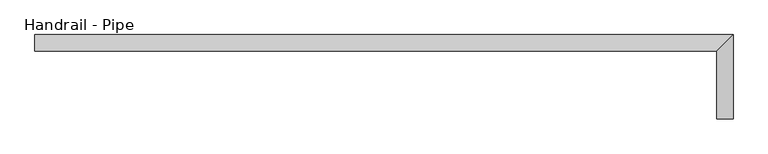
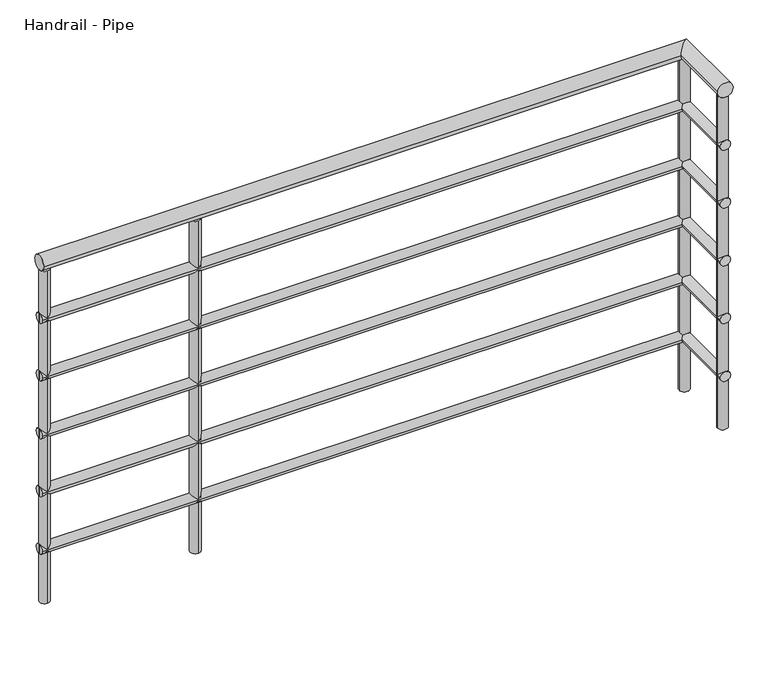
"""IFC4 building model written with IfcOpenShell, lengths in millimetres: railing geometry, Handrail - Pipe."""

from ifc_helpers import new_model, si_unit, point, frame, frame_2d, origin, origin_with_axes, place, context, project, spatial, circle_curve, ellipse_curve, trimmed, segment, composite_curve, outline, extrude, source, transform, mapped, element, save
from ifc_brep_helpers import plane_surface, cylinder_surface, advanced_brep


def handrail_pipe_b2938140(model_context):
    return source(origin(), model_context, "Body", "SolidModel", [
        advanced_brep(
        [(11849.3921922, -6891.4887891, 895.35), (11811.2921922, -6891.4887891, 895.35), (11811.2921922, -6732.7387891, 895.35), (11849.3921922, -6694.6387891, 895.35), (10222.462245, -6694.6387891, 895.35), (10222.462245, -6732.7387891, 895.35)],
        [
            (0, 1, circle_curve(frame((11830.3421922, -6891.4887891, 895.35), z_axis=(0.0, -1.0, 0.0), x_axis=(-1.0, 0.0, 0.0)), 19.05)),
            (1, 0, circle_curve(frame((11830.3421922, -6891.4887891, 895.35), z_axis=(0.0, -1.0, 0.0), x_axis=(-1.0, 0.0, 0.0)), 19.05)),
            (1, 2),
            (2, 3, ellipse_curve(frame((11830.3421922, -6713.6887891, 895.35), z_axis=(0.7071067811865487, -0.7071067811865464, 0.0), x_axis=(-0.7071067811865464, -0.7071067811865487, 0.0)), 26.9407684, 19.05)),
            (3, 0),
            (3, 2, ellipse_curve(frame((11830.3421922, -6713.6887891, 895.35), z_axis=(0.7071067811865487, -0.7071067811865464, 0.0), x_axis=(-0.7071067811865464, -0.7071067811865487, 0.0)), 26.9407684, 19.05)),
            (4, 5, circle_curve(frame((10222.462245, -6713.6887891, 895.35), z_axis=(-1.0, 0.0, 0.0), x_axis=(0.0, -1.0, 0.0)), 19.05)),
            (5, 4, circle_curve(frame((10222.462245, -6713.6887891, 895.35), z_axis=(-1.0, 0.0, 0.0), x_axis=(0.0, -1.0, 0.0)), 19.05)),
            (2, 5),
            (4, 3),
        ],
        [
            plane_surface(frame((11830.3421922, -6891.4887891, 914.4), z_axis=(0.0, -1.0, 0.0), x_axis=(0.0, 0.0, 1.0))),
            cylinder_surface(frame((11830.3421922, -6891.4887891, 895.35), z_axis=(0.0, -1.0, 0.0), x_axis=(-1.0, 0.0, 0.0)), 19.05),
            plane_surface(frame((10222.462245, -6713.6887891, 914.4), z_axis=(-1.0, 0.0, 0.0), x_axis=(0.0, -1.0, 0.0))),
            cylinder_surface(frame((11830.3421922, -6713.6887891, 895.35), z_axis=(1.0, 0.0, 0.0), x_axis=(0.0, -1.0, 0.0)), 19.05),
        ],
        [
            (0, [[1, 2]]),
            (1, [[-2, 3, 4, 5]]),
            (1, [[-1, -5, 6, -3]]),
            (2, [[7, 8]]),
            (3, [[-4, 9, -7, 10]]),
            (3, [[-6, -10, -8, -9]]),
        ],
    ),
        advanced_brep(
        [(11843.0421922, -6891.4887891, 749.3), (11817.6421922, -6891.4887891, 749.3), (11817.6421922, -6726.3887891, 749.3), (11843.0421922, -6700.9887891, 749.3), (10222.462245, -6700.9887891, 749.3), (10222.462245, -6726.3887891, 749.3)],
        [
            (0, 1, circle_curve(frame((11830.3421922, -6891.4887891, 749.3), z_axis=(0.0, -1.0, 0.0), x_axis=(-1.0, 0.0, 0.0)), 12.7)),
            (1, 0, circle_curve(frame((11830.3421922, -6891.4887891, 749.3), z_axis=(0.0, -1.0, 0.0), x_axis=(-1.0, 0.0, 0.0)), 12.7)),
            (1, 2),
            (2, 3, ellipse_curve(frame((11830.3421922, -6713.6887891, 749.3), z_axis=(0.7071067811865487, -0.7071067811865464, 0.0), x_axis=(-0.7071067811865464, -0.7071067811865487, 0.0)), 17.9605122, 12.7)),
            (3, 0),
            (3, 2, ellipse_curve(frame((11830.3421922, -6713.6887891, 749.3), z_axis=(0.7071067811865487, -0.7071067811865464, 0.0), x_axis=(-0.7071067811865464, -0.7071067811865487, 0.0)), 17.9605122, 12.7)),
            (4, 5, circle_curve(frame((10222.462245, -6713.6887891, 749.3), z_axis=(-1.0, 0.0, 0.0), x_axis=(0.0, -1.0, 0.0)), 12.7)),
            (5, 4, circle_curve(frame((10222.462245, -6713.6887891, 749.3), z_axis=(-1.0, 0.0, 0.0), x_axis=(0.0, -1.0, 0.0)), 12.7)),
            (2, 5),
            (4, 3),
        ],
        [
            plane_surface(frame((11830.3421922, -6891.4887891, 762.0), z_axis=(0.0, -1.0, 0.0), x_axis=(0.0, 0.0, 1.0))),
            cylinder_surface(frame((11830.3421922, -6891.4887891, 749.3), z_axis=(0.0, -1.0, 0.0), x_axis=(-1.0, 0.0, 0.0)), 12.7),
            plane_surface(frame((10222.462245, -6713.6887891, 762.0), z_axis=(-1.0, 0.0, 0.0), x_axis=(0.0, -1.0, 0.0))),
            cylinder_surface(frame((11830.3421922, -6713.6887891, 749.3), z_axis=(1.0, 0.0, 0.0), x_axis=(0.0, -1.0, 0.0)), 12.7),
        ],
        [
            (0, [[1, 2]]),
            (1, [[-2, 3, 4, 5]]),
            (1, [[-1, -5, 6, -3]]),
            (2, [[7, 8]]),
            (3, [[-4, 9, -7, 10]]),
            (3, [[-6, -10, -8, -9]]),
        ],
    ),
        advanced_brep(
        [(11843.0421922, -6891.4887891, 596.9), (11817.6421922, -6891.4887891, 596.9), (11817.6421922, -6726.3887891, 596.9), (11843.0421922, -6700.9887891, 596.9), (10222.462245, -6700.9887891, 596.9), (10222.462245, -6726.3887891, 596.9)],
        [
            (0, 1, circle_curve(frame((11830.3421922, -6891.4887891, 596.9), z_axis=(0.0, -1.0, 0.0), x_axis=(-1.0, 0.0, 0.0)), 12.7)),
            (1, 0, circle_curve(frame((11830.3421922, -6891.4887891, 596.9), z_axis=(0.0, -1.0, 0.0), x_axis=(-1.0, 0.0, 0.0)), 12.7)),
            (1, 2),
            (2, 3, ellipse_curve(frame((11830.3421922, -6713.6887891, 596.9), z_axis=(0.7071067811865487, -0.7071067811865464, 0.0), x_axis=(-0.7071067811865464, -0.7071067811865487, 0.0)), 17.9605122, 12.7)),
            (3, 0),
            (3, 2, ellipse_curve(frame((11830.3421922, -6713.6887891, 596.9), z_axis=(0.7071067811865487, -0.7071067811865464, 0.0), x_axis=(-0.7071067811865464, -0.7071067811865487, 0.0)), 17.9605122, 12.7)),
            (4, 5, circle_curve(frame((10222.462245, -6713.6887891, 596.9), z_axis=(-1.0, 0.0, 0.0), x_axis=(0.0, -1.0, 0.0)), 12.7)),
            (5, 4, circle_curve(frame((10222.462245, -6713.6887891, 596.9), z_axis=(-1.0, 0.0, 0.0), x_axis=(0.0, -1.0, 0.0)), 12.7)),
            (2, 5),
            (4, 3),
        ],
        [
            plane_surface(frame((11830.3421922, -6891.4887891, 609.6), z_axis=(0.0, -1.0, 0.0), x_axis=(0.0, 0.0, 1.0))),
            cylinder_surface(frame((11830.3421922, -6891.4887891, 596.9), z_axis=(0.0, -1.0, 0.0), x_axis=(-1.0, 0.0, 0.0)), 12.7),
            plane_surface(frame((10222.462245, -6713.6887891, 609.6), z_axis=(-1.0, 0.0, 0.0), x_axis=(0.0, -1.0, 0.0))),
            cylinder_surface(frame((11830.3421922, -6713.6887891, 596.9), z_axis=(1.0, 0.0, 0.0), x_axis=(0.0, -1.0, 0.0)), 12.7),
        ],
        [
            (0, [[1, 2]]),
            (1, [[-2, 3, 4, 5]]),
            (1, [[-1, -5, 6, -3]]),
            (2, [[7, 8]]),
            (3, [[-4, 9, -7, 10]]),
            (3, [[-6, -10, -8, -9]]),
        ],
    ),
        advanced_brep(
        [(11843.0421922, -6891.4887891, 444.5), (11817.6421922, -6891.4887891, 444.5), (11817.6421922, -6726.3887891, 444.5), (11843.0421922, -6700.9887891, 444.5), (10222.462245, -6700.9887891, 444.5), (10222.462245, -6726.3887891, 444.5)],
        [
            (0, 1, circle_curve(frame((11830.3421922, -6891.4887891, 444.5), z_axis=(0.0, -1.0, 0.0), x_axis=(-1.0, 0.0, 0.0)), 12.7)),
            (1, 0, circle_curve(frame((11830.3421922, -6891.4887891, 444.5), z_axis=(0.0, -1.0, 0.0), x_axis=(-1.0, 0.0, 0.0)), 12.7)),
            (1, 2),
            (2, 3, ellipse_curve(frame((11830.3421922, -6713.6887891, 444.5), z_axis=(0.7071067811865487, -0.7071067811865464, 0.0), x_axis=(-0.7071067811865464, -0.7071067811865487, 0.0)), 17.9605122, 12.7)),
            (3, 0),
            (3, 2, ellipse_curve(frame((11830.3421922, -6713.6887891, 444.5), z_axis=(0.7071067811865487, -0.7071067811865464, 0.0), x_axis=(-0.7071067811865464, -0.7071067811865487, 0.0)), 17.9605122, 12.7)),
            (4, 5, circle_curve(frame((10222.462245, -6713.6887891, 444.5), z_axis=(-1.0, 0.0, 0.0), x_axis=(0.0, -1.0, 0.0)), 12.7)),
            (5, 4, circle_curve(frame((10222.462245, -6713.6887891, 444.5), z_axis=(-1.0, 0.0, 0.0), x_axis=(0.0, -1.0, 0.0)), 12.7)),
            (2, 5),
            (4, 3),
        ],
        [
            plane_surface(frame((11830.3421922, -6891.4887891, 457.2), z_axis=(0.0, -1.0, 0.0), x_axis=(0.0, 0.0, 1.0))),
            cylinder_surface(frame((11830.3421922, -6891.4887891, 444.5), z_axis=(0.0, -1.0, 0.0), x_axis=(-1.0, 0.0, 0.0)), 12.7),
            plane_surface(frame((10222.462245, -6713.6887891, 457.2), z_axis=(-1.0, 0.0, 0.0), x_axis=(0.0, -1.0, 0.0))),
            cylinder_surface(frame((11830.3421922, -6713.6887891, 444.5), z_axis=(1.0, 0.0, 0.0), x_axis=(0.0, -1.0, 0.0)), 12.7),
        ],
        [
            (0, [[1, 2]]),
            (1, [[-2, 3, 4, 5]]),
            (1, [[-1, -5, 6, -3]]),
            (2, [[7, 8]]),
            (3, [[-4, 9, -7, 10]]),
            (3, [[-6, -10, -8, -9]]),
        ],
    ),
        advanced_brep(
        [(11843.0421922, -6891.4887891, 292.1), (11817.6421922, -6891.4887891, 292.1), (11817.6421922, -6726.3887891, 292.1), (11843.0421922, -6700.9887891, 292.1), (10222.462245, -6700.9887891, 292.1), (10222.462245, -6726.3887891, 292.1)],
        [
            (0, 1, circle_curve(frame((11830.3421922, -6891.4887891, 292.1), z_axis=(0.0, -1.0, 0.0), x_axis=(-1.0, 0.0, 0.0)), 12.7)),
            (1, 0, circle_curve(frame((11830.3421922, -6891.4887891, 292.1), z_axis=(0.0, -1.0, 0.0), x_axis=(-1.0, 0.0, 0.0)), 12.7)),
            (1, 2),
            (2, 3, ellipse_curve(frame((11830.3421922, -6713.6887891, 292.1), z_axis=(0.7071067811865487, -0.7071067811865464, 0.0), x_axis=(-0.7071067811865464, -0.7071067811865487, 0.0)), 17.9605122, 12.7)),
            (3, 0),
            (3, 2, ellipse_curve(frame((11830.3421922, -6713.6887891, 292.1), z_axis=(0.7071067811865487, -0.7071067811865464, 0.0), x_axis=(-0.7071067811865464, -0.7071067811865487, 0.0)), 17.9605122, 12.7)),
            (4, 5, circle_curve(frame((10222.462245, -6713.6887891, 292.1), z_axis=(-1.0, 0.0, 0.0), x_axis=(0.0, -1.0, 0.0)), 12.7)),
            (5, 4, circle_curve(frame((10222.462245, -6713.6887891, 292.1), z_axis=(-1.0, 0.0, 0.0), x_axis=(0.0, -1.0, 0.0)), 12.7)),
            (2, 5),
            (4, 3),
        ],
        [
            plane_surface(frame((11830.3421922, -6891.4887891, 304.8), z_axis=(0.0, -1.0, 0.0), x_axis=(0.0, 0.0, 1.0))),
            cylinder_surface(frame((11830.3421922, -6891.4887891, 292.1), z_axis=(0.0, -1.0, 0.0), x_axis=(-1.0, 0.0, 0.0)), 12.7),
            plane_surface(frame((10222.462245, -6713.6887891, 304.8), z_axis=(-1.0, 0.0, 0.0), x_axis=(0.0, -1.0, 0.0))),
            cylinder_surface(frame((11830.3421922, -6713.6887891, 292.1), z_axis=(1.0, 0.0, 0.0), x_axis=(0.0, -1.0, 0.0)), 12.7),
        ],
        [
            (0, [[1, 2]]),
            (1, [[-2, 3, 4, 5]]),
            (1, [[-1, -5, 6, -3]]),
            (2, [[7, 8]]),
            (3, [[-4, 9, -7, 10]]),
            (3, [[-6, -10, -8, -9]]),
        ],
    ),
        advanced_brep(
        [(11843.0421922, -6891.4887891, 139.7), (11817.6421922, -6891.4887891, 139.7), (11817.6421922, -6726.3887891, 139.7), (11843.0421922, -6700.9887891, 139.7), (10222.462245, -6700.9887891, 139.7), (10222.462245, -6726.3887891, 139.7)],
        [
            (0, 1, circle_curve(frame((11830.3421922, -6891.4887891, 139.7), z_axis=(0.0, -1.0, 0.0), x_axis=(-1.0, 0.0, 0.0)), 12.7)),
            (1, 0, circle_curve(frame((11830.3421922, -6891.4887891, 139.7), z_axis=(0.0, -1.0, 0.0), x_axis=(-1.0, 0.0, 0.0)), 12.7)),
            (1, 2),
            (2, 3, ellipse_curve(frame((11830.3421922, -6713.6887891, 139.7), z_axis=(0.7071067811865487, -0.7071067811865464, 0.0), x_axis=(-0.7071067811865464, -0.7071067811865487, 0.0)), 17.9605122, 12.7)),
            (3, 0),
            (3, 2, ellipse_curve(frame((11830.3421922, -6713.6887891, 139.7), z_axis=(0.7071067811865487, -0.7071067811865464, 0.0), x_axis=(-0.7071067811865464, -0.7071067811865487, 0.0)), 17.9605122, 12.7)),
            (4, 5, circle_curve(frame((10222.462245, -6713.6887891, 139.7), z_axis=(-1.0, 0.0, 0.0), x_axis=(0.0, -1.0, 0.0)), 12.7)),
            (5, 4, circle_curve(frame((10222.462245, -6713.6887891, 139.7), z_axis=(-1.0, 0.0, 0.0), x_axis=(0.0, -1.0, 0.0)), 12.7)),
            (2, 5),
            (4, 3),
        ],
        [
            plane_surface(frame((11830.3421922, -6891.4887891, 152.4), z_axis=(0.0, -1.0, 0.0), x_axis=(0.0, 0.0, 1.0))),
            cylinder_surface(frame((11830.3421922, -6891.4887891, 139.7), z_axis=(0.0, -1.0, 0.0), x_axis=(-1.0, 0.0, 0.0)), 12.7),
            plane_surface(frame((10222.462245, -6713.6887891, 152.4), z_axis=(-1.0, 0.0, 0.0), x_axis=(0.0, -1.0, 0.0))),
            cylinder_surface(frame((11830.3421922, -6713.6887891, 139.7), z_axis=(1.0, 0.0, 0.0), x_axis=(0.0, -1.0, 0.0)), 12.7),
        ],
        [
            (0, [[1, 2]]),
            (1, [[-2, 3, 4, 5]]),
            (1, [[-1, -5, 6, -3]]),
            (2, [[7, 8]]),
            (3, [[-4, 9, -7, 10]]),
            (3, [[-6, -10, -8, -9]]),
        ],
    ),
        extrude(outline(composite_curve([segment(trimmed(circle_curve(frame_2d((10611.1421922, -6713.6887891)), 12.7), [point((10611.1421922, -6700.9887891))], [point((10611.1421922, -6726.3887891))], False, "CARTESIAN"), True, "CONTINUOUS"), segment(trimmed(circle_curve(frame_2d((10611.1421922, -6713.6887891)), 12.7), [point((10611.1421922, -6726.3887891))], [point((10611.1421922, -6700.9887891))], False, "CARTESIAN"), True, "CONTINUOUS")], self_intersect=False)), origin_with_axes(), (0.0, 0.0, 1.0), 876.3),
        extrude(outline(composite_curve([segment(trimmed(circle_curve(frame_2d((11830.3421922, -6713.6887891)), 12.7), [point((11843.0421922, -6713.6887891))], [point((11817.6421922, -6713.6887891))], False, "CARTESIAN"), True, "CONTINUOUS"), segment(trimmed(circle_curve(frame_2d((11830.3421922, -6713.6887891)), 12.7), [point((11817.6421922, -6713.6887891))], [point((11843.0421922, -6713.6887891))], False, "CARTESIAN"), True, "CONTINUOUS")], self_intersect=False)), origin_with_axes(), (0.0, 0.0, 1.0), 876.3),
        extrude(outline(composite_curve([segment(trimmed(circle_curve(frame_2d((10235.162245, -6713.6887891)), 12.7), [point((10235.162245, -6700.9887891))], [point((10235.162245, -6726.3887891))], False, "CARTESIAN"), True, "CONTINUOUS"), segment(trimmed(circle_curve(frame_2d((10235.162245, -6713.6887891)), 12.7), [point((10235.162245, -6726.3887891))], [point((10235.162245, -6700.9887891))], False, "CARTESIAN"), True, "CONTINUOUS")], self_intersect=False)), origin_with_axes(), (0.0, 0.0, 1.0), 876.3),
        extrude(outline(composite_curve([segment(trimmed(circle_curve(frame_2d((11830.3421922, -6878.7887891)), 12.7), [point((11843.0421922, -6878.7887891))], [point((11817.6421922, -6878.7887891))], False, "CARTESIAN"), True, "CONTINUOUS"), segment(trimmed(circle_curve(frame_2d((11830.3421922, -6878.7887891)), 12.7), [point((11817.6421922, -6878.7887891))], [point((11843.0421922, -6878.7887891))], False, "CARTESIAN"), True, "CONTINUOUS")], self_intersect=False)), origin_with_axes(), (0.0, 0.0, 1.0), 876.3),
    ])


if __name__ == "__main__":
    model = new_model("IFC4")
    model_context = context("Model", 3, world=origin())
    ifc_project = project(units=[si_unit("LENGTHUNIT", "METRE", prefix="MILLI")], contexts=[model_context])
    site = spatial("IfcSite", under=ifc_project)
    building = spatial("IfcBuilding", under=site)
    placement = place(None, origin())
    handrail_pipe_shape = handrail_pipe_b2938140(model_context)
    element("IfcRailing", 1, ObjectType="Handrail - Pipe", at=placement, inside=building, context=model_context, shape_type="MappedRepresentation", body=[
        mapped(handrail_pipe_shape, transform((0.0, 0.0, 0.0), x_axis=(1.0, 0.0, 0.0), y_axis=(0.0, 1.0, 0.0), z_axis=(0.0, 0.0, 1.0))),
    ])
    save(model, "model.ifc")
